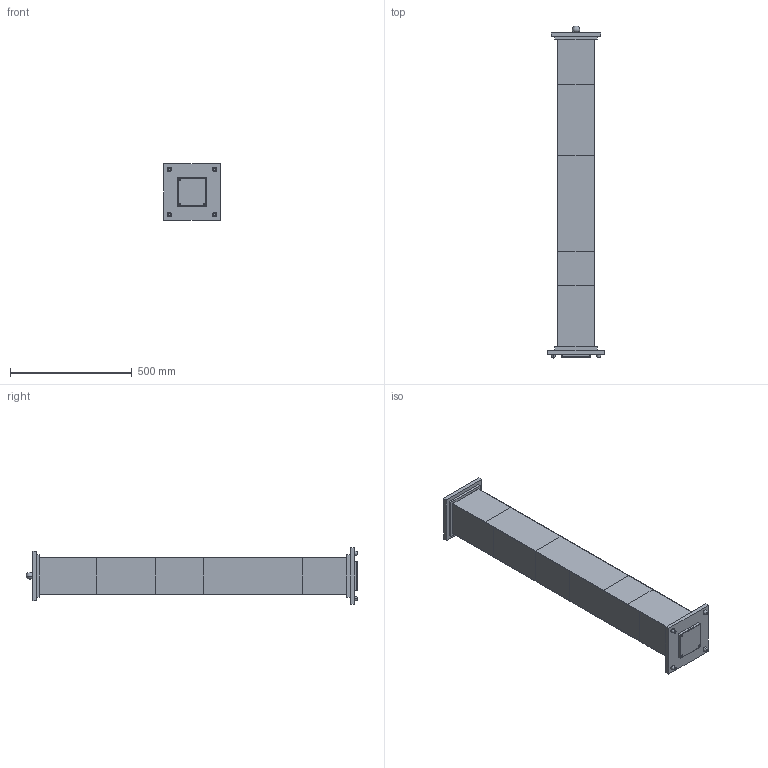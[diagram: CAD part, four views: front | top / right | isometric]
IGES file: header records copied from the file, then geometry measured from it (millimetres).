
Start section: SolidWorks IGES file using analytic representation for surfaces
Global section: file name: C:\SANTACOLE_PDM\Proyectos Catálogo\PROD-P22-006 -- LA BELLA DURMIENTE\6_Técnico comercial\3D\LaBellaDurmienteMenor_3D.IGS; native system: SolidWorks 2024; preprocessor: SolidWorks 2024; author: enric.justo; date: 250910.171944; units: millimetre
Bounding box: 230 x 1361.5 x 230 mm (x, y, z)
Surface area: 1996696.3 mm2 (no closed solid volume)
Topology: 0 solids, 0 shells, 310 faces, 4224 edges, 4221 vertices
Faces by surface type: bspline 257, revolution 53
